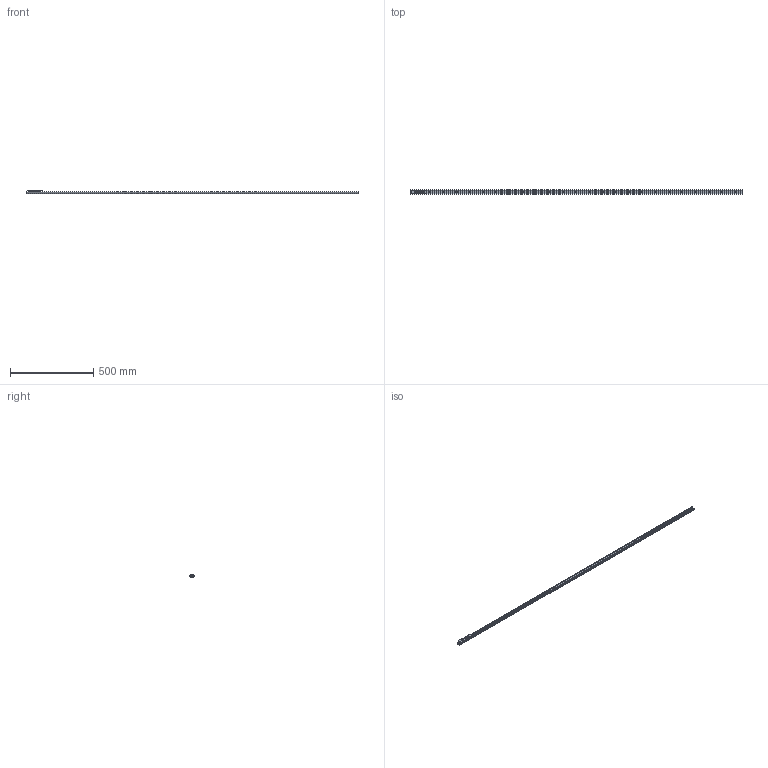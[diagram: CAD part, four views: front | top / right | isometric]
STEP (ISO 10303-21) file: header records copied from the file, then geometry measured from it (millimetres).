
FILE_DESCRIPTION( ( 'STEP AP214' ), '1' );
FILE_NAME( 'p:/temp/worker_21/temp/exporttempdir_5792_102_tdwwG/format_0/TEN26-2000-CEN26-92.stp', '2020-05-08T18:52:05', ( 'License CC BY-ND 4.0' ), ( 'CADENAS' ), ' ', 'PARTsolutions', ' ' );
FILE_SCHEMA( ( 'AUTOMOTIVE_DESIGN { 1 0 10303 214 1 1 1 1 }' ) );
Length unit declared in the file: millimetre
Products named in the file (6): TEN26-2000-CEN26-92; _TEN 26-2000; _CEN26-92_1; _RLN26(11.2_M5); _RLA26(11.2_M5); _LAN-26
Assembly tree (8 placements, depth 2):
  TEN26-2000-CEN26-92
    _TEN 26-2000
    _CEN26-92_1
    _RLN26(11.2_M5)  x2
    _RLA26(11.2_M5)
    _LAN-26  x3
Bounding box: 2000 x 26 x 22 mm (x, y, z)
Volume: 219929.6 mm3; surface area: 185876.7 mm2
Topology: 8 solids, 8 shells, 258 faces, 576 edges, 361 vertices
Faces by surface type: plane 131, cylinder 94, cone 24, bspline 9
Full cylindrical faces by diameter (mm): 2.5 x2, 4.134 x5, 4.5 x3, 5 x6, 6.5 x25, 9.3 x3, 11.2 x6, 11.6 x6, 15.7 x6, 16.7 x6
Entity records: 6308 total; most frequent: CARTESIAN_POINT 910, DIRECTION 862, ORIENTED_EDGE 634, AXIS2_PLACEMENT_3D 367, EDGE_LOOP 332, EDGE_CURVE 317, VERTEX_POINT 247, FACE_OUTER_BOUND 234
